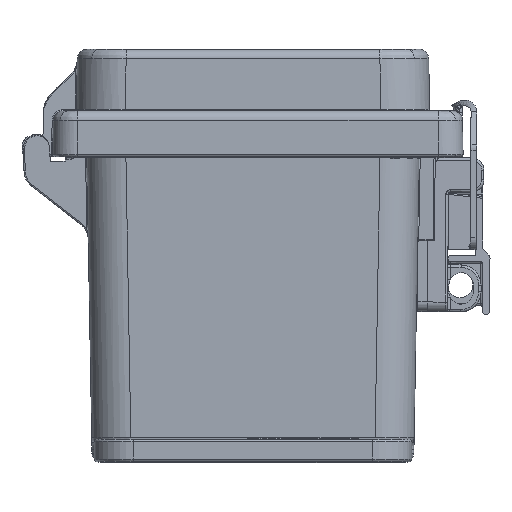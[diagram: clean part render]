
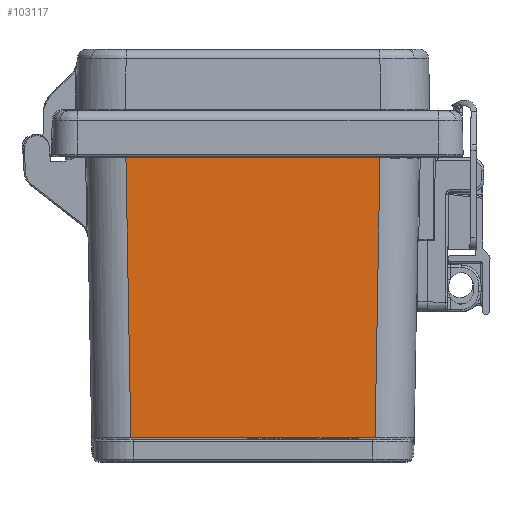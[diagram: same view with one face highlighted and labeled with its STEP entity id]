
A CAD part, front view. The second image highlights one B-rep face of the part: STEP entity #103117.
In plain terms, the highlighted planar face has unit normal (0, -1, -0.018).
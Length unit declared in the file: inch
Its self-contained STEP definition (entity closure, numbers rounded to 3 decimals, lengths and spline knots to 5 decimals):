
#2287 = EDGE_LOOP ( 'NONE', ( #98387, #39057, #96522, #129501, #26352, #75498 ) ) ;
#3519 = LINE ( 'NONE', #91065, #115825 ) ;
#11341 = DIRECTION ( 'NONE',  ( 0., 0.017, -1. ) ) ;
#12275 = EDGE_CURVE ( 'NONE', #82804, #16982, #3519, .T. ) ;
#12989 = CARTESIAN_POINT ( 'NONE',  ( -1.6246, -3.12755, -0.42674 ) ) ;
#16982 = VERTEX_POINT ( 'NONE', #138626 ) ;
#26352 = ORIENTED_EDGE ( 'NONE', *, *, #81236, .T. ) ;
#33790 = CARTESIAN_POINT ( 'NONE',  ( -1.6246, -3.12755, -0.42674 ) ) ;
#39057 = ORIENTED_EDGE ( 'NONE', *, *, #65872, .T. ) ;
#39585 = PLANE ( 'NONE',  #82688 ) ;
#46475 = VECTOR ( 'NONE', #11341, 39.37008 ) ;
#47625 = LINE ( 'NONE', #57713, #95354 ) ;
#47630 = DIRECTION ( 'NONE',  ( 0.017, 0.017, -1. ) ) ;
#50555 = DIRECTION ( 'NONE',  ( 0., 0.017, -1. ) ) ;
#52931 = CARTESIAN_POINT ( 'NONE',  ( 1.6246, -3.12453, -0.6 ) ) ;
#57713 = CARTESIAN_POINT ( 'NONE',  ( 1.63393, -3.13385, -0.06577 ) ) ;
#59049 = EDGE_CURVE ( 'NONE', #81208, #82804, #97601, .T. ) ;
#63286 = VECTOR ( 'NONE', #110366, 39.37008 ) ;
#63943 = DIRECTION ( 'NONE',  ( 0., 0.017, -1. ) ) ;
#65872 = EDGE_CURVE ( 'NONE', #76987, #81208, #77234, .T. ) ;
#67788 = VERTEX_POINT ( 'NONE', #96773 ) ;
#68952 = EDGE_CURVE ( 'NONE', #106247, #67788, #47625, .T. ) ;
#70972 = FACE_OUTER_BOUND ( 'NONE', #2287, .T. ) ;
#73280 = EDGE_CURVE ( 'NONE', #76987, #67788, #106698, .T. ) ;
#74397 = VECTOR ( 'NONE', #63943, 39.37008 ) ;
#75498 = ORIENTED_EDGE ( 'NONE', *, *, #68952, .T. ) ;
#76523 = CARTESIAN_POINT ( 'NONE',  ( -1.6246, -3.12453, -0.6 ) ) ;
#76987 = VERTEX_POINT ( 'NONE', #108066 ) ;
#77234 = LINE ( 'NONE', #12989, #135033 ) ;
#81208 = VERTEX_POINT ( 'NONE', #33790 ) ;
#81236 = EDGE_CURVE ( 'NONE', #16982, #106247, #121058, .T. ) ;
#82688 = AXIS2_PLACEMENT_3D ( 'NONE', #104362, #115726, #50555 ) ;
#82804 = VERTEX_POINT ( 'NONE', #137527 ) ;
#91065 = CARTESIAN_POINT ( 'NONE',  ( -1.63523, -3.13515, 0.00872 ) ) ;
#95354 = VECTOR ( 'NONE', #133837, 39.37008 ) ;
#96522 = ORIENTED_EDGE ( 'NONE', *, *, #59049, .T. ) ;
#96773 = CARTESIAN_POINT ( 'NONE',  ( 1.6246, -3.12453, -0.6 ) ) ;
#97601 = LINE ( 'NONE', #76523, #46475 ) ;
#98387 = ORIENTED_EDGE ( 'NONE', *, *, #73280, .F. ) ;
#99495 = CARTESIAN_POINT ( 'NONE',  ( -2.135, -3.06209, -4.17718 ) ) ;
#103117 = ADVANCED_FACE ( 'NONE', ( #70972 ), #39585, .T. ) ;
#104362 = CARTESIAN_POINT ( 'NONE',  ( -2.135, -3.135, 0. ) ) ;
#106247 = VERTEX_POINT ( 'NONE', #110455 ) ;
#106698 = LINE ( 'NONE', #52931, #74397 ) ;
#108066 = CARTESIAN_POINT ( 'NONE',  ( 1.6246, -3.12755, -0.42674 ) ) ;
#110366 = DIRECTION ( 'NONE',  ( 1., 0., 0. ) ) ;
#110455 = CARTESIAN_POINT ( 'NONE',  ( 1.56216, -3.06209, -4.17718 ) ) ;
#115726 = DIRECTION ( 'NONE',  ( 0., -1., -0.017 ) ) ;
#115825 = VECTOR ( 'NONE', #47630, 39.37008 ) ;
#121058 = LINE ( 'NONE', #99495, #63286 ) ;
#129501 = ORIENTED_EDGE ( 'NONE', *, *, #12275, .T. ) ;
#133788 = DIRECTION ( 'NONE',  ( -1., 0., 0. ) ) ;
#133837 = DIRECTION ( 'NONE',  ( 0.017, -0.017, 1. ) ) ;
#135033 = VECTOR ( 'NONE', #133788, 39.37008 ) ;
#137527 = CARTESIAN_POINT ( 'NONE',  ( -1.6246, -3.12453, -0.6 ) ) ;
#138626 = CARTESIAN_POINT ( 'NONE',  ( -1.56216, -3.06209, -4.17718 ) ) ;
